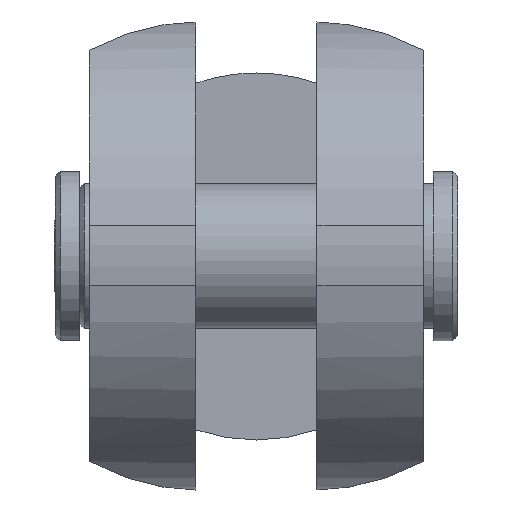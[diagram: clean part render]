
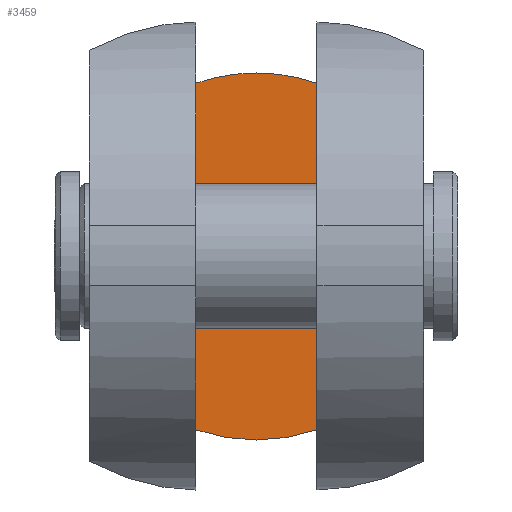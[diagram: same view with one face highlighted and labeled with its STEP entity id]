
A CAD part, top view. The second image highlights one B-rep face of the part: STEP entity #3459.
In plain terms, the highlighted planar face has unit normal (0, 0, 1).
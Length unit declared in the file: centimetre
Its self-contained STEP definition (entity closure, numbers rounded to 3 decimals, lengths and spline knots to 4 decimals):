
#152=PLANE('',#3649);
#503=LINE('',#5629,#851);
#504=LINE('',#5631,#852);
#851=VECTOR('',#4343,14.2951);
#852=VECTOR('',#4346,14.2951);
#1138=FACE_OUTER_BOUND('',#1344,.T.);
#1344=EDGE_LOOP('',(#3012,#3013,#3014,#3015));
#1406=CIRCLE('',#3504,7.5721);
#1407=CIRCLE('',#3505,7.5721);
#1453=VERTEX_POINT('',#4502);
#1454=VERTEX_POINT('',#4506);
#1459=VERTEX_POINT('',#4542);
#1460=VERTEX_POINT('',#4546);
#1763=EDGE_CURVE('',#1453,#1454,#1406,.T.);
#1769=EDGE_CURVE('',#1459,#1460,#1407,.T.);
#2164=EDGE_CURVE('',#1460,#1453,#503,.T.);
#2165=EDGE_CURVE('',#1459,#1454,#504,.T.);
#3012=ORIENTED_EDGE('',*,*,#1769,.F.);
#3013=ORIENTED_EDGE('',*,*,#2165,.T.);
#3014=ORIENTED_EDGE('',*,*,#1763,.F.);
#3015=ORIENTED_EDGE('',*,*,#2164,.F.);
#3459=ADVANCED_FACE('',(#1138),#152,.F.);
#3504=AXIS2_PLACEMENT_3D('',#4507,#3719,#3720);
#3505=AXIS2_PLACEMENT_3D('',#4547,#3721,#3722);
#3649=AXIS2_PLACEMENT_3D('',#5630,#4344,#4345);
#3719=DIRECTION('center_axis',(0.,0.,
-1.));
#3720=DIRECTION('ref_axis',(0.,1.,0.));
#3721=DIRECTION('center_axis',(0.,0.,
-1.));
#3722=DIRECTION('ref_axis',(0.,1.,0.));
#4343=DIRECTION('',(0.,-1.,0.));
#4344=DIRECTION('center_axis',(0.,0.,
-1.));
#4345=DIRECTION('ref_axis',(1.,0.,0.));
#4346=DIRECTION('',(0.,-1.,0.));
#4502=CARTESIAN_POINT('',(2.5,-7.1475,-11.8));
#4506=CARTESIAN_POINT('',(-2.5,-7.1475,-11.8));
#4507=CARTESIAN_POINT('Origin',(0.,0.,
-11.8));
#4542=CARTESIAN_POINT('',(-2.5,7.1475,-11.8));
#4546=CARTESIAN_POINT('',(2.5,7.1475,-11.8));
#4547=CARTESIAN_POINT('Origin',(0.,0.,
-11.8));
#5629=CARTESIAN_POINT('',(2.5,0.,-11.8));
#5630=CARTESIAN_POINT('Origin',(-2.5,0.,
-11.8));
#5631=CARTESIAN_POINT('',(-2.5,0.,-11.8));
